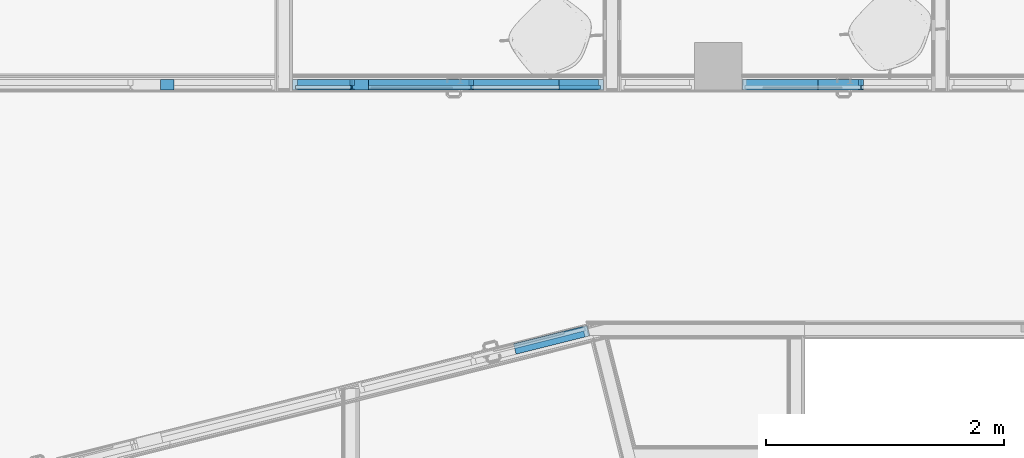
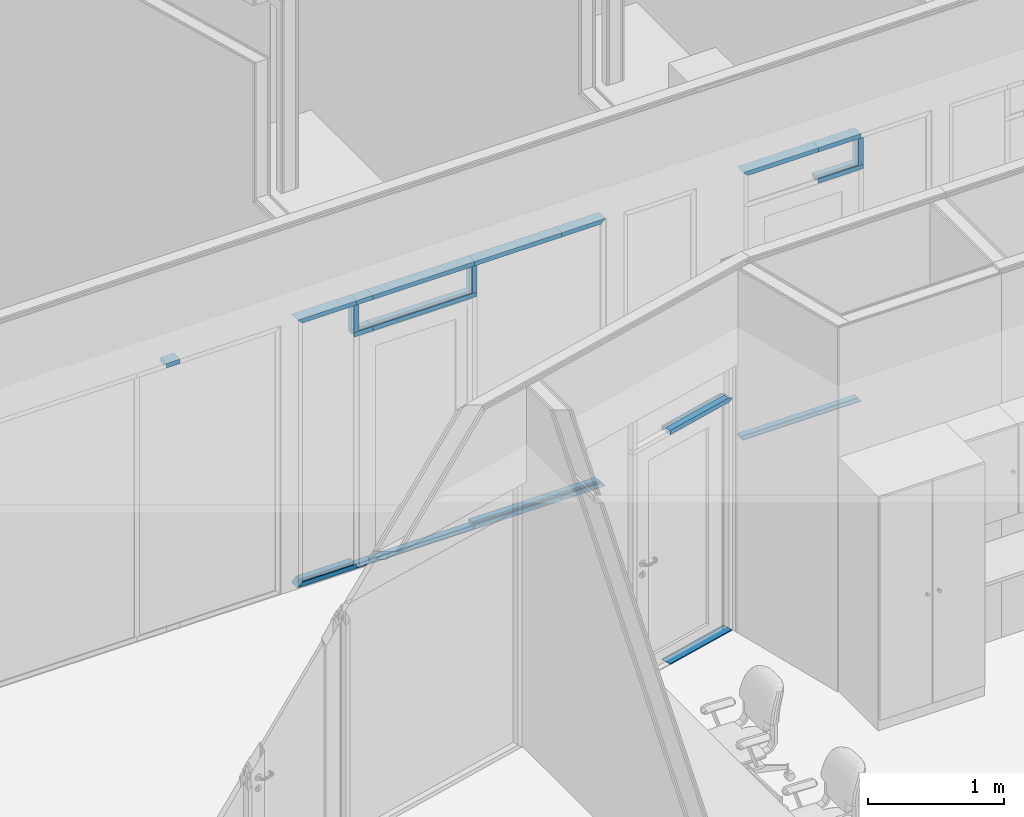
# One storey, part 6 of 153: 23 members, 4 elements without a shape of their own.
"""IFC2X3 building model written with IfcOpenShell, lengths in millimetres."""

from ifc_helpers import new_model, entity, si_unit, converted_unit, derived_unit, money_unit, direction, frame, origin_with_axes, place, context, subcontext, project, spatial, faceted_brep, source, transform, mapped, material, type_object, element, aggregate, save


model = new_model("IFC2X3")

# Units and contexts
model_context = context("Model", 3, precision=0.01, world=origin_with_axes(), true_north=direction((0.0, 1.0)))
body_context = subcontext(model_context, "Body", "Model", "MODEL_VIEW")
ifc_project = project(units=[si_unit("LENGTHUNIT", "METRE", prefix="MILLI"), si_unit("AREAUNIT", "SQUARE_METRE"), si_unit("VOLUMEUNIT", "CUBIC_METRE"), converted_unit("PLANEANGLEUNIT", "DEGREE", entity("IfcPlaneAngleMeasure", 0.0174532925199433), si_unit("PLANEANGLEUNIT", "RADIAN"), dimensions=[0, 0, 0, 0, 0, 0, 0]), money_unit("EUR"), converted_unit("TIMEUNIT", "Year", entity("IfcTimeMeasure", 31557600.0), si_unit("TIMEUNIT", "SECOND"), dimensions=[0, 0, 1, 0, 0, 0, 0]), si_unit("MASSUNIT", "GRAM", prefix="KILO"), si_unit("THERMODYNAMICTEMPERATUREUNIT", "DEGREE_CELSIUS"), si_unit("LUMINOUSINTENSITYUNIT", "LUMEN"), si_unit("ENERGYUNIT", "JOULE", prefix="MEGA"), derived_unit("THERMALCONDUCTANCEUNIT", [(si_unit("POWERUNIT", "WATT"), 1), (si_unit("LENGTHUNIT", "METRE"), -1), (si_unit("THERMODYNAMICTEMPERATUREUNIT", "KELVIN"), -1)]), derived_unit("SPECIFICHEATCAPACITYUNIT", [(si_unit("ENERGYUNIT", "JOULE"), 1), (si_unit("MASSUNIT", "GRAM", prefix="KILO"), -1), (si_unit("THERMODYNAMICTEMPERATUREUNIT", "KELVIN"), -1)]), derived_unit("MASSDENSITYUNIT", [(si_unit("MASSUNIT", "GRAM", prefix="KILO"), 1), (si_unit("VOLUMEUNIT", "CUBIC_METRE"), -1)])], contexts=[model_context])

# Site, building, storey
site_placement = place(None, frame((0.0, 0.0, 8650.0), z_axis=(0.0, 0.0, 1.0), x_axis=(1.0, 0.0, 0.0)))
site = spatial("IfcSite", under=ifc_project, at=site_placement, Name="43301:001:0844", CompositionType="ELEMENT")
building_placement = place(site_placement, origin_with_axes())
building = spatial("IfcBuilding", under=site, at=building_placement, Name="Kuressaare Ametikooli tuulikute mehaanikute õppekorpus", CompositionType="ELEMENT")
storey_placement = place(building_placement, frame((0.0, 0.0, 4100.0), z_axis=(0.0, 0.0, 1.0), x_axis=(1.0, 0.0, 0.0)))
storey = spatial("IfcBuildingStorey", under=building, at=storey_placement, Name="2.korrus", CompositionType="ELEMENT", Elevation=4100.0)

# Curtain wall, members
curtain_wall_type = type_object("IfcCurtainWallType", Name="Curtain Wall Type", PredefinedType="NOTDEFINED")
curtain_wall_1_placement = place(storey_placement, frame((123223.4159387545, 23599.06892395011, 7.152564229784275e-05), z_axis=(0.0, 0.0, 1.0), x_axis=(1.0, 0.0, 0.0)))
curtain_wall_1 = element("IfcCurtainWall", 1, at=curtain_wall_1_placement, inside=storey, type_object=curtain_wall_type, Name="PKF-1.2")
ifc_material = material(Name="Aluminium")
member_type_1 = type_object("IfcMemberType", Name="Mullion Frame 40 x 90", PredefinedType="NOTDEFINED")
shared_shape_1 = source(origin_with_axes(), body_context, "Body", "Brep", [
    faceted_brep([(-5.000000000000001, -15.0, 260.000051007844), (-20.0, -15.0, 260.000051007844), (-20.0, -65.0, 260.000051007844), (20.0, -65.0, 260.000051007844), (20.0, -15.0, 260.000051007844), (5.000000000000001, -15.0, 260.000051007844), (5.000000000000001, 15.0, 260.000051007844), (20.0, 15.0, 260.000051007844), (20.0, 24.99999999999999, 260.000051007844), (-20.0, 24.99999999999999, 260.000051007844), (-20.0, 15.0, 260.000051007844), (-5.000000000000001, 15.0, 260.000051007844), (-5.000000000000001, -15.0, 20.00000000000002), (-20.0, -15.0, 20.00000000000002), (-20.0, -65.0, 20.00000000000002), (20.0, -65.0, 20.00000000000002), (20.0, -15.0, 20.00000000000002), (5.000000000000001, -15.0, 20.00000000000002), (5.000000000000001, 15.0, 20.00000000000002), (20.0, 15.0, 20.00000000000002), (20.0, 24.99999999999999, 20.00000000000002), (-20.0, 24.99999999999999, 20.00000000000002), (-20.0, 15.0, 20.00000000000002), (-5.000000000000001, 15.0, 20.00000000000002)], [[[0, 1, 2, 3, 4, 5, 6, 7, 8, 9, 10, 11]], [[1, 0, 12, 13]], [[1, 13, 14, 2]], [[2, 14, 15, 3]], [[4, 3, 15, 16]], [[4, 16, 17, 5]], [[5, 17, 18, 6]], [[7, 6, 18, 19]], [[19, 20, 8, 7]], [[8, 20, 21, 9]], [[22, 10, 9, 21]], [[11, 10, 22, 23]], [[0, 11, 23, 12]], [[23, 22, 21, 20, 19, 18, 17, 16, 15, 14, 13, 12]]]),
])
member_1_placement = place(curtain_wall_1_placement, frame((620.652434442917, 0.0, 2099.999935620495), z_axis=(0.0, 0.0, 1.0), x_axis=(-1.0, 0.0, 0.0)))
member_1 = element("IfcMember", 2, at=member_1_placement, type_object=member_type_1, material=ifc_material, context=body_context, shape_type="MappedRepresentation", body=[
    mapped(shared_shape_1, transform((0.0, 0.0, 0.0))),
])
member_2_placement = place(curtain_wall_1_placement, frame((-379.3475954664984, 0.0, 2099.999935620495), z_axis=(0.0, 0.0, 1.0), x_axis=(-1.0, 0.0, 0.0)))
member_2 = element("IfcMember", 3, at=member_2_placement, type_object=member_type_1, material=ifc_material, context=body_context, shape_type="MappedRepresentation", body=[
    mapped(shared_shape_1, transform((0.0, 0.0, 0.0))),
])

curtain_wall_2_placement = place(storey_placement, frame((126664.0825969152, 23599.06892395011, 9.536752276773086e-05), z_axis=(0.0, 0.0, 1.0), x_axis=(1.0, 0.0, 0.0)))
curtain_wall_2 = element("IfcCurtainWall", 4, at=curtain_wall_2_placement, inside=storey, type_object=curtain_wall_type, Name="PKF-1.4")
member_3_placement = place(curtain_wall_2_placement, frame((453.9857702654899, 0.0, 2099.999916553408), z_axis=(0.0, 0.0, 1.0), x_axis=(-1.0, 0.0, 0.0)))
member_3 = element("IfcMember", 5, at=member_3_placement, type_object=member_type_1, material=ifc_material, context=body_context, shape_type="MappedRepresentation", body=[
    mapped(shared_shape_1, transform((0.0, 0.0, 0.0))),
])
member_type_2 = type_object("IfcMemberType", Name="Boundary Frame 40 x 90", PredefinedType="NOTDEFINED")
shared_shape_2 = source(origin_with_axes(), body_context, "Body", "Brep", [
    faceted_brep([(-25.0, -15.0, 638.0427759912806), (-40.0, -15.0, 638.0427759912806), (-40.0, -65.0, 638.0427759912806), (0.0, -65.0, 638.0427759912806), (0.0, 0.0, 638.0427759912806), (0.0, 24.99999999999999, 638.0427759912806), (-40.0, 24.99999999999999, 638.0427759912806), (-40.0, 15.0, 638.0427759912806), (-25.0, 15.0, 638.0427759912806), (-25.0, -15.0, 25.00000000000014), (-40.0, -15.0, 39.99999999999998), (-40.0, -65.0, 40.00000000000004), (0.0, -65.0, 0.0), (0.0, 0.0, 0.0), (0.0, 24.99999999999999, 0.0), (-40.0, 24.99999999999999, 39.99999999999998), (-40.0, 15.0, 39.99999999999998), (-25.0, 15.0, 25.00000000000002)], [[[0, 1, 2, 3, 4, 5, 6, 7, 8]], [[0, 9, 10, 1]], [[10, 11, 2, 1]], [[2, 11, 12, 3]], [[3, 12, 13, 4]], [[4, 13, 14, 5]], [[5, 14, 15, 6]], [[7, 6, 15, 16]], [[16, 17, 8, 7]], [[8, 17, 9, 0]], [[9, 17, 16, 15, 14, 13, 12, 11, 10]]]),
])
member_4_placement = place(curtain_wall_2_placement, frame((-546.0142731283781, 0.0, 2399.999976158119), z_axis=(1.0, 0.0, 0.0), x_axis=(0.0, 0.0, 1.0)))
member_4 = element("IfcMember", 6, at=member_4_placement, type_object=member_type_2, material=ifc_material, context=body_context, shape_type="MappedRepresentation", body=[
    mapped(shared_shape_2, transform((0.0, 0.0, 0.0))),
])

# Curtain wall, member
curtain_wall_3_placement = place(storey_placement, frame((123471.3194861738, 21235.04693506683, 4.768376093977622e-05), z_axis=(0.0, 0.0, 1.0), x_axis=(1.0, 0.0, 0.0)))
curtain_wall_3 = element("IfcCurtainWall", 7, at=curtain_wall_3_placement, inside=storey, type_object=curtain_wall_type, Name="PKF-2.3")
member_type_3 = type_object("IfcMemberType", Name="10 x 90", PredefinedType="NOTDEFINED")
shared_shape_3 = source(origin_with_axes(), body_context, "Body", "Brep", [
    faceted_brep([(5.0, -15.0, 638.0426912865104), (5.0, 15.0, 638.0426912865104), (10.0, 15.0, 638.0426912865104), (10.0, 24.99999999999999, 638.0426912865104), (0.0, 24.99999999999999, 638.0426912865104), (0.0, 0.0, 638.0426912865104), (0.0, -65.0, 638.0426912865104), (10.0, -65.0, 638.0426912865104), (10.0, -15.0, 638.0426912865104), (5.0, -15.0, 5.000000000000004), (5.0, 15.0, 5.000000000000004), (10.0, 15.0, 10.00000000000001), (10.0, 24.99999999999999, 10.00000000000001), (0.0, 24.99999999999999, 0.0), (0.0, 0.0, 0.0), (0.0, -65.0, 0.0), (10.0, -65.0, 10.00000000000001), (10.0, -15.0, 10.00000000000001)], [[[0, 1, 2, 3, 4, 5, 6, 7, 8]], [[1, 0, 9, 10]], [[11, 2, 1, 10]], [[2, 11, 12, 3]], [[4, 3, 12, 13]], [[5, 4, 13, 14]], [[6, 5, 14, 15]], [[7, 6, 15, 16]], [[17, 8, 7, 16]], [[0, 8, 17, 9]], [[9, 17, 16, 15, 14, 13, 12, 11, 10]]]),
])
member_5_placement = place(curtain_wall_3_placement, frame((1352.64886301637, 339.0329700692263, -4.768376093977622e-05), z_axis=(-0.96999539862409, -0.2431232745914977, 0.0), x_axis=(0.0, 0.0, 1.0)))
member_5 = element("IfcMember", 8, at=member_5_placement, type_object=member_type_3, material=ifc_material, context=body_context, shape_type="MappedRepresentation", body=[
    mapped(shared_shape_3, transform((0.0, 0.0, 0.0))),
])

# Member
member_6_placement = place(curtain_wall_2_placement, frame((-546.0142731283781, 0.0, -9.536752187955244e-05), z_axis=(1.0, 0.0, 0.0), x_axis=(0.0, 0.0, 1.0)))
member_6 = element("IfcMember", 9, at=member_6_placement, type_object=member_type_3, material=ifc_material, context=body_context, shape_type="MappedRepresentation", body=[
    mapped(shared_shape_3, transform((0.0, 0.0, 0.0))),
])

shared_shape_4 = source(origin_with_axes(), body_context, "Body", "Brep", [
    faceted_brep([(5.0, -15.0, 361.9572485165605), (5.0, 15.0, 361.9572485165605), (10.0, 15.0, 361.9572485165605), (10.0, 24.99999999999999, 361.9572485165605), (0.0, 24.99999999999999, 361.9572485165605), (0.0, 0.0, 361.9572485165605), (0.0, -65.0, 361.9572485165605), (10.0, -65.0, 361.9572485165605), (10.0, -15.0, 361.9572485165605), (5.0, -15.0, 0.0), (5.0, 15.0, 0.0), (10.0, 15.0, 0.0), (10.0, 24.99999999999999, 0.0), (0.0, 24.99999999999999, 0.0), (0.0, 0.0, 0.0), (0.0, -65.0, 0.0), (10.0, -65.0, 0.0), (10.0, -15.0, 0.0)], [[[0, 1, 2, 3, 4, 5, 6, 7, 8]], [[1, 0, 9, 10]], [[11, 2, 1, 10]], [[2, 11, 12, 3]], [[13, 4, 3, 12]], [[14, 5, 4, 13]], [[15, 6, 5, 14]], [[16, 7, 6, 15]], [[17, 8, 7, 16]], [[0, 8, 17, 9]], [[9, 17, 16, 15, 14, 13, 12, 11, 10]]]),
])
member_7_placement = place(curtain_wall_2_placement, frame((92.02850286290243, 0.0, -9.536752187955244e-05), z_axis=(1.0, 0.0, 0.0), x_axis=(0.0, 0.0, 1.0)))
member_7 = element("IfcMember", 10, at=member_7_placement, type_object=member_type_3, material=ifc_material, context=body_context, shape_type="MappedRepresentation", body=[
    mapped(shared_shape_4, transform((0.0, 0.0, 0.0))),
])

shared_shape_5 = source(origin_with_axes(), body_context, "Body", "Brep", [
    faceted_brep([(-25.0, -15.0, 361.9572674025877), (-40.0, -15.0, 361.9572674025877), (-40.0, -65.0, 361.9572674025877), (0.0, -65.0, 361.9572674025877), (0.0, 0.0, 361.9572674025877), (0.0, 24.99999999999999, 361.9572674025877), (-40.0, 24.99999999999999, 361.9572674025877), (-40.0, 15.0, 361.9572674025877), (-25.0, 15.0, 361.9572674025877), (-25.0, -15.0, 0.0), (-40.0, -15.0, 0.0), (-40.0, -65.0, 0.0), (0.0, -65.0, 0.0), (0.0, 0.0, 0.0), (0.0, 24.99999999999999, 0.0), (-40.0, 24.99999999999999, 0.0), (-40.0, 15.0, 0.0), (-25.0, 15.0, 0.0)], [[[0, 1, 2, 3, 4, 5, 6, 7, 8]], [[0, 9, 10, 1]], [[10, 11, 2, 1]], [[11, 12, 3, 2]], [[12, 13, 4, 3]], [[13, 14, 5, 4]], [[14, 15, 6, 5]], [[7, 6, 15, 16]], [[16, 17, 8, 7]], [[8, 17, 9, 0]], [[9, 17, 16, 15, 14, 13, 12, 11, 10]]]),
])
member_8_placement = place(curtain_wall_2_placement, frame((92.02850286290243, 0.0, 2399.999976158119), z_axis=(1.0, 0.0, 0.0), x_axis=(0.0, 0.0, 1.0)))
member_8 = element("IfcMember", 11, at=member_8_placement, type_object=member_type_2, material=ifc_material, context=body_context, shape_type="MappedRepresentation", body=[
    mapped(shared_shape_5, transform((0.0, 0.0, 0.0))),
])

shared_shape_6 = source(origin_with_axes(), body_context, "Body", "Brep", [
    faceted_brep([(-5.000000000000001, -15.0, 638.0426912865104), (-20.0, -15.0, 638.0426912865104), (-20.0, -65.0, 638.0426912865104), (20.0, -65.0, 638.0426912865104), (20.0, -15.0, 638.0426912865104), (5.000000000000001, -15.0, 638.0426912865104), (5.000000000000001, 15.0, 638.0426912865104), (20.0, 15.0, 638.0426912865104), (20.0, 24.99999999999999, 638.0426912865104), (-20.0, 24.99999999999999, 638.0426912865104), (-20.0, 15.0, 638.0426912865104), (-5.000000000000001, 15.0, 638.0426912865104), (-5.000000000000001, -15.0, 10.00000000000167), (-20.00000000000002, -15.0, 40.00000000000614), (-20.00000000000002, -65.0, 40.00000000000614), (0.0, -65.0, 0.0), (20.00000000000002, -65.0, 40.00000000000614), (20.00000000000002, -15.0, 40.00000000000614), (5.000000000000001, -15.0, 10.00000000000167), (5.000000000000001, 15.0, 10.00000000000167), (20.00000000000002, 15.0, 40.00000000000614), (20.00000000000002, 24.99999999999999, 40.00000000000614), (0.0, 24.99999999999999, 0.0), (-20.00000000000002, 24.99999999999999, 40.00000000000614), (-20.00000000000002, 15.0, 40.00000000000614), (-5.000000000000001, 15.0, 10.00000000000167)], [[[0, 1, 2, 3, 4, 5, 6, 7, 8, 9, 10, 11]], [[1, 0, 12, 13]], [[1, 13, 14, 2]], [[14, 15, 16, 3, 2]], [[4, 3, 16, 17]], [[4, 17, 18, 5]], [[5, 18, 19, 6]], [[7, 6, 19, 20]], [[20, 21, 8, 7]], [[21, 22, 23, 9, 8]], [[24, 10, 9, 23]], [[11, 10, 24, 25]], [[0, 11, 25, 12]], [[25, 24, 23, 22, 15, 14, 13, 12]], [[21, 20, 19, 18, 17, 16, 15, 22]]]),
])
member_9_placement = place(curtain_wall_3_placement, frame((1352.64886301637, 339.0329700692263, 2079.999968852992), z_axis=(-0.96999539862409, -0.2431232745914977, 0.0), x_axis=(0.0, 0.0, 1.0)))
member_9 = element("IfcMember", 12, at=member_9_placement, type_object=member_type_2, material=ifc_material, context=body_context, shape_type="MappedRepresentation", body=[
    mapped(shared_shape_6, transform((0.0, 0.0, 0.0))),
])

aggregate(curtain_wall_3, [member_5, member_9])

shared_shape_7 = source(origin_with_axes(), body_context, "Body", "Brep", [
    faceted_brep([(-5.000000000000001, -15.0, 381.9572485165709), (-20.0, -15.0, 381.9572485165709), (-20.0, -65.0, 381.9572485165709), (20.0, -65.0, 381.9572485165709), (20.0, -15.0, 381.9572485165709), (5.000000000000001, -15.0, 381.9572485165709), (5.000000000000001, 15.0, 381.9572485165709), (20.0, 15.0, 381.9572485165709), (20.0, 24.99999999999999, 381.9572485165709), (-20.0, 24.99999999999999, 381.9572485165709), (-20.0, 15.0, 381.9572485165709), (-5.000000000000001, 15.0, 381.9572485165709), (-5.000000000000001, -15.0, 0.0), (-20.0, -15.0, 0.0), (-20.0, -65.0, 0.0), (20.0, -65.0, 0.0), (20.0, -15.0, 0.0), (5.000000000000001, -15.0, 0.0), (5.000000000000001, 15.0, 0.0), (20.0, 15.0, 0.0), (20.0, 24.99999999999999, 0.0), (-20.0, 24.99999999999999, 0.0), (-20.0, 15.0, 0.0), (-5.000000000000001, 15.0, 0.0)], [[[0, 1, 2, 3, 4, 5, 6, 7, 8, 9, 10, 11]], [[1, 0, 12, 13]], [[1, 13, 14, 2]], [[3, 2, 14, 15]], [[4, 3, 15, 16]], [[4, 16, 17, 5]], [[5, 17, 18, 6]], [[7, 6, 18, 19]], [[19, 20, 8, 7]], [[9, 8, 20, 21]], [[22, 10, 9, 21]], [[11, 10, 22, 23]], [[0, 11, 23, 12]], [[23, 22, 21, 20, 19, 18, 17, 16, 15, 14, 13, 12]]]),
])
member_10_placement = place(curtain_wall_2_placement, frame((92.02850286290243, 0.0, 2099.999916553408), z_axis=(1.0, 0.0, 0.0), x_axis=(0.0, 0.0, 1.0)))
member_10 = element("IfcMember", 13, at=member_10_placement, type_object=member_type_2, material=ifc_material, context=body_context, shape_type="MappedRepresentation", body=[
    mapped(shared_shape_7, transform((0.0, 0.0, 0.0))),
])

aggregate(curtain_wall_2, [member_4, member_6, member_3, member_7, member_8, member_10])

# Curtain wall, member
curtain_wall_4_placement = place(storey_placement, frame((119422.8886145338, 23599.06892395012, 7.49398259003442e-05), z_axis=(0.0, 0.0, 1.0), x_axis=(1.0, 0.0, 0.0)))
curtain_wall_4 = element("IfcCurtainWall", 14, at=curtain_wall_4_placement, inside=storey, type_object=curtain_wall_type, Name="PKF-1.1")
shared_shape_8 = source(origin_with_axes(), body_context, "Body", "Brep", [
    faceted_brep([(-25.0, -15.0, 114.5608928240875), (-40.0, -15.0, 114.5608928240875), (-40.0, -65.0, 114.5608928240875), (0.0, -65.0, 114.5608928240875), (0.0, 0.0, 114.5608928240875), (0.0, 24.99999999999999, 114.5608928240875), (-40.0, 24.99999999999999, 114.5608928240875), (-40.0, 15.0, 114.5608928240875), (-25.0, 15.0, 114.5608928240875), (-25.0, -15.0, 0.0), (-40.0, -15.0, 0.0), (-40.0, -65.0, 0.0), (0.0, -65.0, 0.0), (0.0, 0.0, 0.0), (0.0, 24.99999999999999, 0.0), (-40.0, 24.99999999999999, 0.0), (-40.0, 15.0, 0.0), (-25.0, 15.0, 0.0)], [[[0, 1, 2, 3, 4, 5, 6, 7, 8]], [[0, 9, 10, 1]], [[10, 11, 2, 1]], [[11, 12, 3, 2]], [[12, 13, 4, 3]], [[13, 14, 5, 4]], [[14, 15, 6, 5]], [[7, 6, 15, 16]], [[16, 17, 8, 7]], [[8, 17, 9, 0]], [[9, 17, 16, 15, 14, 13, 12, 11, 10]]]),
])
member_11_placement = place(curtain_wall_4_placement, frame((1812.222485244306, 0.0, 2399.999972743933), z_axis=(1.0, 0.0, 0.0), x_axis=(0.0, 0.0, 1.0)))
member_11 = element("IfcMember", 15, at=member_11_placement, type_object=member_type_2, material=ifc_material, context=body_context, shape_type="MappedRepresentation", body=[
    mapped(shared_shape_8, transform((0.0, 0.0, 0.0))),
])
aggregate(curtain_wall_4, [member_11])

# Member
shared_shape_9 = source(origin_with_axes(), body_context, "Body", "Brep", [
    faceted_brep([(25.0, -15.0, 738.0427265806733), (25.0, 15.0, 738.0427265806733), (40.0, 15.0, 738.0427265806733), (40.0, 24.99999999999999, 738.0427265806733), (0.0, 24.99999999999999, 738.0427265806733), (0.0, 0.0, 738.0427265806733), (0.0, -65.0, 738.0427265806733), (40.0, -65.0, 738.0427265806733), (40.0, -15.0, 738.0427265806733), (25.0, -15.0, 0.0), (25.0, 15.0, 0.0), (40.0, 15.0, 0.0), (40.0, 24.99999999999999, 0.0), (0.0, 24.99999999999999, 0.0), (0.0, 0.0, 0.0), (0.0, -65.0, 0.0), (40.0, -65.0, 0.0), (40.0, -15.0, 0.0)], [[[0, 1, 2, 3, 4, 5, 6, 7, 8]], [[1, 0, 9, 10]], [[11, 2, 1, 10]], [[2, 11, 12, 3]], [[13, 4, 3, 12]], [[14, 5, 4, 13]], [[15, 6, 5, 14]], [[16, 7, 6, 15]], [[17, 8, 7, 16]], [[0, 8, 17, 9]], [[9, 17, 16, 15, 14, 13, 12, 11, 10]]]),
])
member_12_placement = place(curtain_wall_1_placement, frame((620.652434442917, 0.0, -7.152564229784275e-05), z_axis=(1.0, 0.0, 0.0), x_axis=(0.0, 0.0, 1.0)))
member_12 = element("IfcMember", 16, at=member_12_placement, type_object=member_type_2, material=ifc_material, context=body_context, shape_type="MappedRepresentation", body=[
    mapped(shared_shape_9, transform((0.0, 0.0, 0.0))),
])

shared_shape_10 = source(origin_with_axes(), body_context, "Body", "Brep", [
    faceted_brep([(-25.0, -15.0, 738.0427265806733), (-40.0, -15.0, 738.0427265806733), (-40.0, -65.0, 738.0427265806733), (0.0, -65.0, 738.0427265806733), (0.0, 0.0, 738.0427265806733), (0.0, 24.99999999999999, 738.0427265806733), (-40.0, 24.99999999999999, 738.0427265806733), (-40.0, 15.0, 738.0427265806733), (-25.0, 15.0, 738.0427265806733), (-25.0, -15.0, 0.0), (-40.0, -15.0, 0.0), (-40.0, -65.0, 0.0), (0.0, -65.0, 0.0), (0.0, 0.0, 0.0), (0.0, 24.99999999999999, 0.0), (-40.0, 24.99999999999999, 0.0), (-40.0, 15.0, 0.0), (-25.0, 15.0, 0.0)], [[[0, 1, 2, 3, 4, 5, 6, 7, 8]], [[0, 9, 10, 1]], [[10, 11, 2, 1]], [[11, 12, 3, 2]], [[12, 13, 4, 3]], [[13, 14, 5, 4]], [[14, 15, 6, 5]], [[7, 6, 15, 16]], [[16, 17, 8, 7]], [[8, 17, 9, 0]], [[9, 17, 16, 15, 14, 13, 12, 11, 10]]]),
])
member_13_placement = place(curtain_wall_1_placement, frame((620.652434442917, 0.0, 2400.000009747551), z_axis=(1.0, 0.0, 0.0), x_axis=(0.0, 0.0, 1.0)))
member_13 = element("IfcMember", 17, at=member_13_placement, type_object=member_type_2, material=ifc_material, context=body_context, shape_type="MappedRepresentation", body=[
    mapped(shared_shape_10, transform((0.0, 0.0, 0.0))),
])

shared_shape_11 = source(origin_with_axes(), body_context, "Body", "Brep", [
    faceted_brep([(-25.0, -15.0, 138.0427564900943), (-40.0, -15.0, 138.0427564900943), (-40.0, -65.0, 138.0427564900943), (0.0, -65.0, 138.0427564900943), (0.0, 0.0, 138.0427564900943), (0.0, 24.99999999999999, 138.0427564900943), (-40.0, 24.99999999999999, 138.0427564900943), (-40.0, 15.0, 138.0427564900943), (-25.0, 15.0, 138.0427564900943), (-25.0, -15.0, 0.0), (-40.0, -15.0, 0.0), (-40.0, -65.0, 0.0), (0.0, -65.0, 0.0), (0.0, 0.0, 0.0), (0.0, 24.99999999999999, 0.0), (-40.0, 24.99999999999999, 0.0), (-40.0, 15.0, 0.0), (-25.0, 15.0, 0.0)], [[[0, 1, 2, 3, 4, 5, 6, 7, 8]], [[0, 9, 10, 1]], [[10, 11, 2, 1]], [[11, 12, 3, 2]], [[12, 13, 4, 3]], [[13, 14, 5, 4]], [[14, 15, 6, 5]], [[7, 6, 15, 16]], [[16, 17, 8, 7]], [[8, 17, 9, 0]], [[9, 17, 16, 15, 14, 13, 12, 11, 10]]]),
])
member_14_placement = place(curtain_wall_1_placement, frame((-379.3475954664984, 0.0, 2400.000009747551), z_axis=(1.0, 0.0, 0.0), x_axis=(0.0, 0.0, 1.0)))
member_14 = element("IfcMember", 18, at=member_14_placement, type_object=member_type_2, material=ifc_material, context=body_context, shape_type="MappedRepresentation", body=[
    mapped(shared_shape_11, transform((0.0, 0.0, 0.0))),
])

shared_shape_12 = source(origin_with_axes(), body_context, "Body", "Brep", [
    faceted_brep([(-25.0, -15.0, 346.9572810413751), (-40.0, -15.0, 331.9572810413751), (-40.0, -65.0, 331.9572810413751), (0.0, -65.0, 371.9572810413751), (0.0, 0.0, 371.9572810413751), (0.0, 24.99999999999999, 371.9572810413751), (-40.0, 24.99999999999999, 331.9572810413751), (-40.0, 15.0, 331.9572810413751), (-25.0, 15.0, 346.9572810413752), (-25.0, -15.0, 0.0), (-40.0, -15.0, 0.0), (-40.0, -65.0, 0.0), (0.0, -65.0, 0.0), (0.0, 0.0, 0.0), (0.0, 24.99999999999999, 0.0), (-40.0, 24.99999999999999, 0.0), (-40.0, 15.0, 0.0), (-25.0, 15.0, 0.0)], [[[0, 1, 2, 3, 4, 5, 6, 7, 8]], [[0, 9, 10, 1]], [[10, 11, 2, 1]], [[11, 12, 3, 2]], [[12, 13, 4, 3]], [[13, 14, 5, 4]], [[14, 15, 6, 5]], [[7, 6, 15, 16]], [[16, 17, 8, 7]], [[8, 17, 9, 0]], [[9, 17, 16, 15, 14, 13, 12, 11, 10]]]),
])
member_15_placement = place(curtain_wall_1_placement, frame((1358.69516102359, 0.0, 2400.000009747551), z_axis=(1.0, 0.0, 0.0), x_axis=(0.0, 0.0, 1.0)))
member_15 = element("IfcMember", 19, at=member_15_placement, type_object=member_type_2, material=ifc_material, context=body_context, shape_type="MappedRepresentation", body=[
    mapped(shared_shape_12, transform((0.0, 0.0, 0.0))),
])

shared_shape_13 = source(origin_with_axes(), body_context, "Body", "Brep", [
    faceted_brep([(25.0, -15.0, 346.9572810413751), (25.0, 15.0, 346.9572810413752), (40.0, 15.0, 331.9572810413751), (40.0, 24.99999999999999, 331.9572810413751), (0.0, 24.99999999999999, 371.9572810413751), (0.0, 0.0, 371.9572810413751), (0.0, -65.0, 371.9572810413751), (40.0, -65.0, 331.9572810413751), (40.0, -15.0, 331.9572810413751), (25.0, -15.0, 0.0), (25.0, 15.0, 0.0), (40.0, 15.0, 0.0), (40.0, 24.99999999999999, 0.0), (0.0, 24.99999999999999, 0.0), (0.0, 0.0, 0.0), (0.0, -65.0, 0.0), (40.0, -65.0, 0.0), (40.0, -15.0, 0.0)], [[[0, 1, 2, 3, 4, 5, 6, 7, 8]], [[1, 0, 9, 10]], [[11, 2, 1, 10]], [[2, 11, 12, 3]], [[13, 4, 3, 12]], [[14, 5, 4, 13]], [[15, 6, 5, 14]], [[16, 7, 6, 15]], [[17, 8, 7, 16]], [[0, 8, 17, 9]], [[9, 17, 16, 15, 14, 13, 12, 11, 10]]]),
])
member_16_placement = place(curtain_wall_1_placement, frame((1358.69516102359, 0.0, -7.152564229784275e-05), z_axis=(1.0, 0.0, 0.0), x_axis=(0.0, 0.0, 1.0)))
member_16 = element("IfcMember", 20, at=member_16_placement, type_object=member_type_2, material=ifc_material, context=body_context, shape_type="MappedRepresentation", body=[
    mapped(shared_shape_13, transform((0.0, 0.0, 0.0))),
])

shared_shape_14 = source(origin_with_axes(), body_context, "Body", "Brep", [
    faceted_brep([(5.0, -15.0, 138.0427564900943), (5.0, 15.0, 138.0427564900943), (10.0, 15.0, 138.0427564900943), (10.0, 24.99999999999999, 138.0427564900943), (0.0, 24.99999999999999, 138.0427564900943), (0.0, 0.0, 138.0427564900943), (0.0, -65.0, 138.0427564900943), (10.0, -65.0, 138.0427564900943), (10.0, -15.0, 138.0427564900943), (5.0, -15.0, 0.0), (5.0, 15.0, 0.0), (10.0, 15.0, 0.0), (10.0, 24.99999999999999, 0.0), (0.0, 24.99999999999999, 0.0), (0.0, 0.0, 0.0), (0.0, -65.0, 0.0), (10.0, -65.0, 0.0), (10.0, -15.0, 0.0)], [[[0, 1, 2, 3, 4, 5, 6, 7, 8]], [[1, 0, 9, 10]], [[11, 2, 1, 10]], [[2, 11, 12, 3]], [[13, 4, 3, 12]], [[14, 5, 4, 13]], [[15, 6, 5, 14]], [[16, 7, 6, 15]], [[17, 8, 7, 16]], [[0, 8, 17, 9]], [[9, 17, 16, 15, 14, 13, 12, 11, 10]]]),
])
member_17_placement = place(curtain_wall_1_placement, frame((-379.3475954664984, 0.0, -7.152564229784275e-05), z_axis=(1.0, 0.0, 0.0), x_axis=(0.0, 0.0, 1.0)))
member_17 = element("IfcMember", 21, at=member_17_placement, type_object=member_type_3, material=ifc_material, context=body_context, shape_type="MappedRepresentation", body=[
    mapped(shared_shape_14, transform((0.0, 0.0, 0.0))),
])

shared_shape_15 = source(origin_with_axes(), body_context, "Body", "Brep", [
    faceted_brep([(25.0, -15.0, 500.0000195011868), (25.0, 15.0, 500.0000195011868), (40.0, 15.0, 500.0000195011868), (40.0, 24.99999999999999, 500.0000195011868), (0.0, 24.99999999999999, 500.0000195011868), (0.0, 0.0, 500.0000195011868), (0.0, -65.0, 500.0000195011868), (40.0, -65.0, 500.0000195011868), (40.0, -15.0, 500.0000195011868), (25.0, -15.0, 25.00000000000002), (25.0, 15.0, 25.00000000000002), (40.0, 15.0, 40.00000000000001), (40.0, 24.99999999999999, 40.00000000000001), (0.0, 24.99999999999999, 0.0), (0.0, 0.0, 0.0), (0.0, -65.0, 0.0), (40.0, -65.0, 40.00000000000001), (40.0, -15.0, 40.00000000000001)], [[[0, 1, 2, 3, 4, 5, 6, 7, 8]], [[1, 0, 9, 10]], [[11, 2, 1, 10]], [[2, 11, 12, 3]], [[4, 3, 12, 13]], [[5, 4, 13, 14]], [[6, 5, 14, 15]], [[7, 6, 15, 16]], [[17, 8, 7, 16]], [[0, 8, 17, 9]], [[9, 17, 16, 15, 14, 13, 12, 11, 10]]]),
])
member_18_placement = place(curtain_wall_1_placement, frame((-879.3476149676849, 0.0, -7.152564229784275e-05), z_axis=(1.0, 0.0, 0.0), x_axis=(0.0, 0.0, 1.0)))
member_18 = element("IfcMember", 22, at=member_18_placement, type_object=member_type_2, material=ifc_material, context=body_context, shape_type="MappedRepresentation", body=[
    mapped(shared_shape_15, transform((0.0, 0.0, 0.0))),
])

shared_shape_16 = source(origin_with_axes(), body_context, "Body", "Brep", [
    faceted_brep([(5.0, -15.0, 861.9572734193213), (5.0, 15.0, 861.9572734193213), (10.0, 15.0, 861.9572734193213), (10.0, 24.99999999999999, 861.9572734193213), (0.0, 24.99999999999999, 861.9572734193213), (0.0, 0.0, 861.9572734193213), (0.0, -65.0, 861.9572734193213), (10.0, -65.0, 861.9572734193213), (10.0, -15.0, 861.9572734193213), (5.0, -15.0, 0.0), (5.0, 15.0, 0.0), (10.0, 15.0, 0.0), (10.0, 24.99999999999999, 0.0), (0.0, 24.99999999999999, 0.0), (0.0, 0.0, 0.0), (0.0, -65.0, 0.0), (10.0, -65.0, 0.0), (10.0, -15.0, 0.0)], [[[0, 1, 2, 3, 4, 5, 6, 7, 8]], [[1, 0, 9, 10]], [[11, 2, 1, 10]], [[2, 11, 12, 3]], [[13, 4, 3, 12]], [[14, 5, 4, 13]], [[15, 6, 5, 14]], [[16, 7, 6, 15]], [[17, 8, 7, 16]], [[0, 8, 17, 9]], [[9, 17, 16, 15, 14, 13, 12, 11, 10]]]),
])
member_19_placement = place(curtain_wall_1_placement, frame((-241.3048389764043, 0.0, -7.152564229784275e-05), z_axis=(1.0, 0.0, 0.0), x_axis=(0.0, 0.0, 1.0)))
member_19 = element("IfcMember", 23, at=member_19_placement, type_object=member_type_3, material=ifc_material, context=body_context, shape_type="MappedRepresentation", body=[
    mapped(shared_shape_16, transform((0.0, 0.0, 0.0))),
])

shared_shape_17 = source(origin_with_axes(), body_context, "Body", "Brep", [
    faceted_brep([(-25.0, -15.0, 861.9572734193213), (-40.0, -15.0, 861.9572734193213), (-40.0, -65.0, 861.9572734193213), (0.0, -65.0, 861.9572734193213), (0.0, 0.0, 861.9572734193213), (0.0, 24.99999999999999, 861.9572734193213), (-40.0, 24.99999999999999, 861.9572734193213), (-40.0, 15.0, 861.9572734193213), (-25.0, 15.0, 861.9572734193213), (-25.0, -15.0, 0.0), (-40.0, -15.0, 0.0), (-40.0, -65.0, 0.0), (0.0, -65.0, 0.0), (0.0, 0.0, 0.0), (0.0, 24.99999999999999, 0.0), (-40.0, 24.99999999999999, 0.0), (-40.0, 15.0, 0.0), (-25.0, 15.0, 0.0)], [[[0, 1, 2, 3, 4, 5, 6, 7, 8]], [[0, 9, 10, 1]], [[10, 11, 2, 1]], [[11, 12, 3, 2]], [[12, 13, 4, 3]], [[13, 14, 5, 4]], [[14, 15, 6, 5]], [[7, 6, 15, 16]], [[16, 17, 8, 7]], [[8, 17, 9, 0]], [[9, 17, 16, 15, 14, 13, 12, 11, 10]]]),
])
member_20_placement = place(curtain_wall_1_placement, frame((-241.3048389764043, 0.0, 2400.000009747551), z_axis=(1.0, 0.0, 0.0), x_axis=(0.0, 0.0, 1.0)))
member_20 = element("IfcMember", 24, at=member_20_placement, type_object=member_type_2, material=ifc_material, context=body_context, shape_type="MappedRepresentation", body=[
    mapped(shared_shape_17, transform((0.0, 0.0, 0.0))),
])

shared_shape_18 = source(origin_with_axes(), body_context, "Body", "Brep", [
    faceted_brep([(-25.0, -15.0, 500.0000195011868), (-40.0, -15.0, 500.0000195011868), (-40.0, -65.0, 500.0000195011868), (0.0, -65.0, 500.0000195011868), (0.0, 0.0, 500.0000195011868), (0.0, 24.99999999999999, 500.0000195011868), (-40.0, 24.99999999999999, 500.0000195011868), (-40.0, 15.0, 500.0000195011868), (-25.0, 15.0, 500.0000195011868), (-25.0, -15.0, 25.00000000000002), (-40.0, -15.0, 40.00000000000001), (-40.0, -65.0, 40.00000000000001), (0.0, -65.0, 0.0), (0.0, 0.0, 0.0), (0.0, 24.99999999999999, 0.0), (-40.0, 24.99999999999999, 40.00000000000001), (-40.0, 15.0, 40.00000000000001), (-25.0, 15.0, 25.00000000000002)], [[[0, 1, 2, 3, 4, 5, 6, 7, 8]], [[0, 9, 10, 1]], [[10, 11, 2, 1]], [[2, 11, 12, 3]], [[3, 12, 13, 4]], [[4, 13, 14, 5]], [[5, 14, 15, 6]], [[7, 6, 15, 16]], [[16, 17, 8, 7]], [[8, 17, 9, 0]], [[9, 17, 16, 15, 14, 13, 12, 11, 10]]]),
])
member_21_placement = place(curtain_wall_1_placement, frame((-879.3476149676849, 0.0, 2400.000009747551), z_axis=(1.0, 0.0, 0.0), x_axis=(0.0, 0.0, 1.0)))
member_21 = element("IfcMember", 25, at=member_21_placement, type_object=member_type_2, material=ifc_material, context=body_context, shape_type="MappedRepresentation", body=[
    mapped(shared_shape_18, transform((0.0, 0.0, 0.0))),
])

shared_shape_19 = source(origin_with_axes(), body_context, "Body", "Brep", [
    faceted_brep([(-5.000000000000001, -15.0, 881.9572734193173), (-20.0, -15.0, 881.9572734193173), (-20.0, -65.0, 881.9572734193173), (20.0, -65.0, 881.9572734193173), (20.0, -15.0, 881.9572734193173), (5.000000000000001, -15.0, 881.9572734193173), (5.000000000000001, 15.0, 881.9572734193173), (20.0, 15.0, 881.9572734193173), (20.0, 24.99999999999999, 881.9572734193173), (-20.0, 24.99999999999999, 881.9572734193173), (-20.0, 15.0, 881.9572734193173), (-5.000000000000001, 15.0, 881.9572734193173), (-5.000000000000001, -15.0, 0.0), (-20.0, -15.0, 0.0), (-20.0, -65.0, 0.0), (20.0, -65.0, 0.0), (20.0, -15.0, 0.0), (5.000000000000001, -15.0, 0.0), (5.000000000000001, 15.0, 0.0), (20.0, 15.0, 0.0), (20.0, 24.99999999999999, 0.0), (-20.0, 24.99999999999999, 0.0), (-20.0, 15.0, 0.0), (-5.000000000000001, 15.0, 0.0)], [[[0, 1, 2, 3, 4, 5, 6, 7, 8, 9, 10, 11]], [[1, 0, 12, 13]], [[1, 13, 14, 2]], [[3, 2, 14, 15]], [[4, 3, 15, 16]], [[4, 16, 17, 5]], [[5, 17, 18, 6]], [[7, 6, 18, 19]], [[19, 20, 8, 7]], [[9, 8, 20, 21]], [[22, 10, 9, 21]], [[11, 10, 22, 23]], [[0, 11, 23, 12]], [[23, 22, 21, 20, 19, 18, 17, 16, 15, 14, 13, 12]]]),
])
member_22_placement = place(curtain_wall_1_placement, frame((-241.3048389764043, 0.0, 2099.999935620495), z_axis=(1.0, 0.0, 0.0), x_axis=(0.0, 0.0, 1.0)))
member_22 = element("IfcMember", 26, at=member_22_placement, type_object=member_type_2, material=ifc_material, context=body_context, shape_type="MappedRepresentation", body=[
    mapped(shared_shape_19, transform((0.0, 0.0, 0.0))),
])

shared_shape_20 = source(origin_with_axes(), body_context, "Body", "Brep", [
    faceted_brep([(-5.000000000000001, -15.0, 158.0427564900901), (-20.0, -15.0, 158.0427564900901), (-20.0, -65.0, 158.0427564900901), (20.0, -65.0, 158.0427564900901), (20.0, -15.0, 158.0427564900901), (5.000000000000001, -15.0, 158.0427564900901), (5.000000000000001, 15.0, 158.0427564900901), (20.0, 15.0, 158.0427564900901), (20.0, 24.99999999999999, 158.0427564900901), (-20.0, 24.99999999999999, 158.0427564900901), (-20.0, 15.0, 158.0427564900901), (-5.000000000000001, 15.0, 158.0427564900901), (-5.000000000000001, -15.0, 0.0), (-20.0, -15.0, 0.0), (-20.0, -65.0, 0.0), (20.0, -65.0, 0.0), (20.0, -15.0, 0.0), (5.000000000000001, -15.0, 0.0), (5.000000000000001, 15.0, 0.0), (20.0, 15.0, 0.0), (20.0, 24.99999999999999, 0.0), (-20.0, 24.99999999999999, 0.0), (-20.0, 15.0, 0.0), (-5.000000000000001, 15.0, 0.0)], [[[0, 1, 2, 3, 4, 5, 6, 7, 8, 9, 10, 11]], [[1, 0, 12, 13]], [[1, 13, 14, 2]], [[3, 2, 14, 15]], [[4, 3, 15, 16]], [[4, 16, 17, 5]], [[5, 17, 18, 6]], [[7, 6, 18, 19]], [[19, 20, 8, 7]], [[9, 8, 20, 21]], [[22, 10, 9, 21]], [[11, 10, 22, 23]], [[0, 11, 23, 12]], [[23, 22, 21, 20, 19, 18, 17, 16, 15, 14, 13, 12]]]),
])
member_23_placement = place(curtain_wall_1_placement, frame((-241.3048389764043, 0.0, 2099.999935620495), z_axis=(-1.0, 0.0, 0.0), x_axis=(0.0, 0.0, -1.0)))
member_23 = element("IfcMember", 27, at=member_23_placement, type_object=member_type_2, material=ifc_material, context=body_context, shape_type="MappedRepresentation", body=[
    mapped(shared_shape_20, transform((0.0, 0.0, 0.0))),
])

aggregate(curtain_wall_1, [member_12, member_13, member_14, member_15, member_16, member_17, member_18, member_1, member_20, member_2, member_21, member_22, member_23, member_19])

save(model, "model.ifc")
